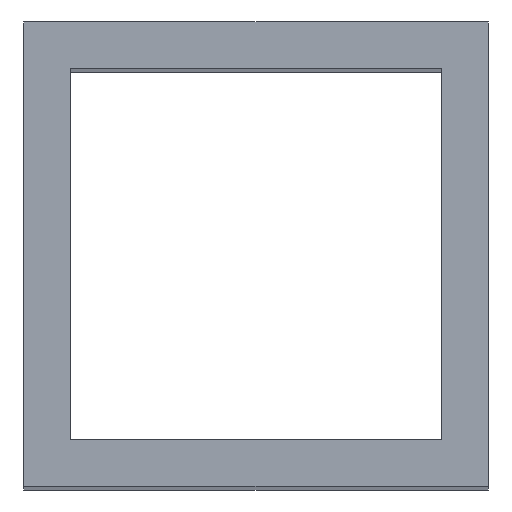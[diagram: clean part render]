
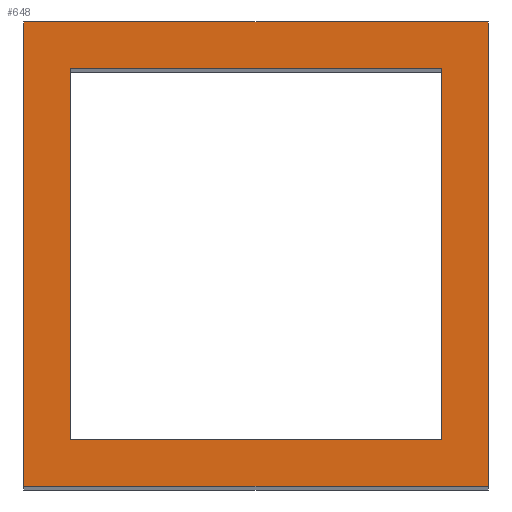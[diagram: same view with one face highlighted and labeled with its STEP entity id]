
A CAD part, top view. The second image highlights one B-rep face of the part: STEP entity #648.
In plain terms, the highlighted planar face has unit normal (0, 0, 1).
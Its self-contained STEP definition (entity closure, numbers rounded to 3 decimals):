
#24 = VERTEX_POINT('',#25);
#25 = CARTESIAN_POINT('',(-50.,-50.,468.));
#32 = PLANE('',#33);
#33 = AXIS2_PLACEMENT_3D('',#34,#35,#36);
#34 = CARTESIAN_POINT('',(-50.,-50.,0.));
#35 = DIRECTION('',(0.,1.,0.));
#36 = DIRECTION('',(1.,0.,0.));
#44 = PLANE('',#45);
#45 = AXIS2_PLACEMENT_3D('',#46,#47,#48);
#46 = CARTESIAN_POINT('',(-50.,50.,0.));
#47 = DIRECTION('',(1.,0.,-0.));
#48 = DIRECTION('',(0.,-1.,0.));
#56 = EDGE_CURVE('',#24,#57,#59,.T.);
#57 = VERTEX_POINT('',#58);
#58 = CARTESIAN_POINT('',(50.,-50.,468.));
#59 = SURFACE_CURVE('',#60,(#64,#71),.PCURVE_S1.);
#60 = LINE('',#61,#62);
#61 = CARTESIAN_POINT('',(-50.,-50.,468.));
#62 = VECTOR('',#63,1.);
#63 = DIRECTION('',(1.,0.,0.));
#64 = PCURVE('',#32,#65);
#65 = DEFINITIONAL_REPRESENTATION('',(#66),#70);
#66 = LINE('',#67,#68);
#67 = CARTESIAN_POINT('',(0.,-468.));
#68 = VECTOR('',#69,1.);
#69 = DIRECTION('',(1.,0.));
#70 = ( GEOMETRIC_REPRESENTATION_CONTEXT(2) 
PARAMETRIC_REPRESENTATION_CONTEXT() REPRESENTATION_CONTEXT('2D SPACE',''
  ) );
#71 = PCURVE('',#72,#77);
#72 = PLANE('',#73);
#73 = AXIS2_PLACEMENT_3D('',#74,#75,#76);
#74 = CARTESIAN_POINT('',(0.,0.,468.));
#75 = DIRECTION('',(0.,0.,1.));
#76 = DIRECTION('',(1.,0.,-0.));
#77 = DEFINITIONAL_REPRESENTATION('',(#78),#82);
#78 = LINE('',#79,#80);
#79 = CARTESIAN_POINT('',(-50.,-50.));
#80 = VECTOR('',#81,1.);
#81 = DIRECTION('',(1.,0.));
#82 = ( GEOMETRIC_REPRESENTATION_CONTEXT(2) 
PARAMETRIC_REPRESENTATION_CONTEXT() REPRESENTATION_CONTEXT('2D SPACE',''
  ) );
#100 = PLANE('',#101);
#101 = AXIS2_PLACEMENT_3D('',#102,#103,#104);
#102 = CARTESIAN_POINT('',(50.,-50.,0.));
#103 = DIRECTION('',(-1.,0.,0.));
#104 = DIRECTION('',(0.,1.,0.));
#142 = EDGE_CURVE('',#57,#143,#145,.T.);
#143 = VERTEX_POINT('',#144);
#144 = CARTESIAN_POINT('',(50.,50.,468.));
#145 = SURFACE_CURVE('',#146,(#150,#157),.PCURVE_S1.);
#146 = LINE('',#147,#148);
#147 = CARTESIAN_POINT('',(50.,-50.,468.));
#148 = VECTOR('',#149,1.);
#149 = DIRECTION('',(0.,1.,0.));
#150 = PCURVE('',#100,#151);
#151 = DEFINITIONAL_REPRESENTATION('',(#152),#156);
#152 = LINE('',#153,#154);
#153 = CARTESIAN_POINT('',(0.,-468.));
#154 = VECTOR('',#155,1.);
#155 = DIRECTION('',(1.,0.));
#156 = ( GEOMETRIC_REPRESENTATION_CONTEXT(2) 
PARAMETRIC_REPRESENTATION_CONTEXT() REPRESENTATION_CONTEXT('2D SPACE',''
  ) );
#157 = PCURVE('',#72,#158);
#158 = DEFINITIONAL_REPRESENTATION('',(#159),#163);
#159 = LINE('',#160,#161);
#160 = CARTESIAN_POINT('',(50.,-50.));
#161 = VECTOR('',#162,1.);
#162 = DIRECTION('',(0.,1.));
#163 = ( GEOMETRIC_REPRESENTATION_CONTEXT(2) 
PARAMETRIC_REPRESENTATION_CONTEXT() REPRESENTATION_CONTEXT('2D SPACE',''
  ) );
#181 = PLANE('',#182);
#182 = AXIS2_PLACEMENT_3D('',#183,#184,#185);
#183 = CARTESIAN_POINT('',(50.,50.,0.));
#184 = DIRECTION('',(0.,-1.,0.));
#185 = DIRECTION('',(-1.,0.,0.));
#218 = EDGE_CURVE('',#143,#219,#221,.T.);
#219 = VERTEX_POINT('',#220);
#220 = CARTESIAN_POINT('',(-50.,50.,468.));
#221 = SURFACE_CURVE('',#222,(#226,#233),.PCURVE_S1.);
#222 = LINE('',#223,#224);
#223 = CARTESIAN_POINT('',(50.,50.,468.));
#224 = VECTOR('',#225,1.);
#225 = DIRECTION('',(-1.,0.,0.));
#226 = PCURVE('',#181,#227);
#227 = DEFINITIONAL_REPRESENTATION('',(#228),#232);
#228 = LINE('',#229,#230);
#229 = CARTESIAN_POINT('',(0.,-468.));
#230 = VECTOR('',#231,1.);
#231 = DIRECTION('',(1.,0.));
#232 = ( GEOMETRIC_REPRESENTATION_CONTEXT(2) 
PARAMETRIC_REPRESENTATION_CONTEXT() REPRESENTATION_CONTEXT('2D SPACE',''
  ) );
#233 = PCURVE('',#72,#234);
#234 = DEFINITIONAL_REPRESENTATION('',(#235),#239);
#235 = LINE('',#236,#237);
#236 = CARTESIAN_POINT('',(50.,50.));
#237 = VECTOR('',#238,1.);
#238 = DIRECTION('',(-1.,0.));
#239 = ( GEOMETRIC_REPRESENTATION_CONTEXT(2) 
PARAMETRIC_REPRESENTATION_CONTEXT() REPRESENTATION_CONTEXT('2D SPACE',''
  ) );
#289 = EDGE_CURVE('',#219,#24,#290,.T.);
#290 = SURFACE_CURVE('',#291,(#295,#302),.PCURVE_S1.);
#291 = LINE('',#292,#293);
#292 = CARTESIAN_POINT('',(-50.,50.,468.));
#293 = VECTOR('',#294,1.);
#294 = DIRECTION('',(0.,-1.,0.));
#295 = PCURVE('',#44,#296);
#296 = DEFINITIONAL_REPRESENTATION('',(#297),#301);
#297 = LINE('',#298,#299);
#298 = CARTESIAN_POINT('',(0.,-468.));
#299 = VECTOR('',#300,1.);
#300 = DIRECTION('',(1.,0.));
#301 = ( GEOMETRIC_REPRESENTATION_CONTEXT(2) 
PARAMETRIC_REPRESENTATION_CONTEXT() REPRESENTATION_CONTEXT('2D SPACE',''
  ) );
#302 = PCURVE('',#72,#303);
#303 = DEFINITIONAL_REPRESENTATION('',(#304),#308);
#304 = LINE('',#305,#306);
#305 = CARTESIAN_POINT('',(-50.,50.));
#306 = VECTOR('',#307,1.);
#307 = DIRECTION('',(0.,-1.));
#308 = ( GEOMETRIC_REPRESENTATION_CONTEXT(2) 
PARAMETRIC_REPRESENTATION_CONTEXT() REPRESENTATION_CONTEXT('2D SPACE',''
  ) );
#338 = VERTEX_POINT('',#339);
#339 = CARTESIAN_POINT('',(-40.,-40.,468.));
#346 = PLANE('',#347);
#347 = AXIS2_PLACEMENT_3D('',#348,#349,#350);
#348 = CARTESIAN_POINT('',(-40.,-40.,0.));
#349 = DIRECTION('',(0.,1.,0.));
#350 = DIRECTION('',(1.,0.,0.));
#358 = PLANE('',#359);
#359 = AXIS2_PLACEMENT_3D('',#360,#361,#362);
#360 = CARTESIAN_POINT('',(-40.,40.,0.));
#361 = DIRECTION('',(1.,0.,-0.));
#362 = DIRECTION('',(0.,-1.,0.));
#370 = EDGE_CURVE('',#338,#371,#373,.T.);
#371 = VERTEX_POINT('',#372);
#372 = CARTESIAN_POINT('',(40.,-40.,468.));
#373 = SURFACE_CURVE('',#374,(#378,#385),.PCURVE_S1.);
#374 = LINE('',#375,#376);
#375 = CARTESIAN_POINT('',(-40.,-40.,468.));
#376 = VECTOR('',#377,1.);
#377 = DIRECTION('',(1.,0.,0.));
#378 = PCURVE('',#346,#379);
#379 = DEFINITIONAL_REPRESENTATION('',(#380),#384);
#380 = LINE('',#381,#382);
#381 = CARTESIAN_POINT('',(0.,-468.));
#382 = VECTOR('',#383,1.);
#383 = DIRECTION('',(1.,0.));
#384 = ( GEOMETRIC_REPRESENTATION_CONTEXT(2) 
PARAMETRIC_REPRESENTATION_CONTEXT() REPRESENTATION_CONTEXT('2D SPACE',''
  ) );
#385 = PCURVE('',#72,#386);
#386 = DEFINITIONAL_REPRESENTATION('',(#387),#391);
#387 = LINE('',#388,#389);
#388 = CARTESIAN_POINT('',(-40.,-40.));
#389 = VECTOR('',#390,1.);
#390 = DIRECTION('',(1.,0.));
#391 = ( GEOMETRIC_REPRESENTATION_CONTEXT(2) 
PARAMETRIC_REPRESENTATION_CONTEXT() REPRESENTATION_CONTEXT('2D SPACE',''
  ) );
#409 = PLANE('',#410);
#410 = AXIS2_PLACEMENT_3D('',#411,#412,#413);
#411 = CARTESIAN_POINT('',(40.,-40.,0.));
#412 = DIRECTION('',(-1.,0.,0.));
#413 = DIRECTION('',(0.,1.,0.));
#446 = EDGE_CURVE('',#371,#447,#449,.T.);
#447 = VERTEX_POINT('',#448);
#448 = CARTESIAN_POINT('',(40.,40.,468.));
#449 = SURFACE_CURVE('',#450,(#454,#461),.PCURVE_S1.);
#450 = LINE('',#451,#452);
#451 = CARTESIAN_POINT('',(40.,-40.,468.));
#452 = VECTOR('',#453,1.);
#453 = DIRECTION('',(0.,1.,0.));
#454 = PCURVE('',#409,#455);
#455 = DEFINITIONAL_REPRESENTATION('',(#456),#460);
#456 = LINE('',#457,#458);
#457 = CARTESIAN_POINT('',(0.,-468.));
#458 = VECTOR('',#459,1.);
#459 = DIRECTION('',(1.,0.));
#460 = ( GEOMETRIC_REPRESENTATION_CONTEXT(2) 
PARAMETRIC_REPRESENTATION_CONTEXT() REPRESENTATION_CONTEXT('2D SPACE',''
  ) );
#461 = PCURVE('',#72,#462);
#462 = DEFINITIONAL_REPRESENTATION('',(#463),#467);
#463 = LINE('',#464,#465);
#464 = CARTESIAN_POINT('',(40.,-40.));
#465 = VECTOR('',#466,1.);
#466 = DIRECTION('',(0.,1.));
#467 = ( GEOMETRIC_REPRESENTATION_CONTEXT(2) 
PARAMETRIC_REPRESENTATION_CONTEXT() REPRESENTATION_CONTEXT('2D SPACE',''
  ) );
#485 = PLANE('',#486);
#486 = AXIS2_PLACEMENT_3D('',#487,#488,#489);
#487 = CARTESIAN_POINT('',(40.,40.,0.));
#488 = DIRECTION('',(0.,-1.,0.));
#489 = DIRECTION('',(-1.,0.,0.));
#522 = EDGE_CURVE('',#447,#523,#525,.T.);
#523 = VERTEX_POINT('',#524);
#524 = CARTESIAN_POINT('',(-40.,40.,468.));
#525 = SURFACE_CURVE('',#526,(#530,#537),.PCURVE_S1.);
#526 = LINE('',#527,#528);
#527 = CARTESIAN_POINT('',(40.,40.,468.));
#528 = VECTOR('',#529,1.);
#529 = DIRECTION('',(-1.,0.,0.));
#530 = PCURVE('',#485,#531);
#531 = DEFINITIONAL_REPRESENTATION('',(#532),#536);
#532 = LINE('',#533,#534);
#533 = CARTESIAN_POINT('',(0.,-468.));
#534 = VECTOR('',#535,1.);
#535 = DIRECTION('',(1.,0.));
#536 = ( GEOMETRIC_REPRESENTATION_CONTEXT(2) 
PARAMETRIC_REPRESENTATION_CONTEXT() REPRESENTATION_CONTEXT('2D SPACE',''
  ) );
#537 = PCURVE('',#72,#538);
#538 = DEFINITIONAL_REPRESENTATION('',(#539),#543);
#539 = LINE('',#540,#541);
#540 = CARTESIAN_POINT('',(40.,40.));
#541 = VECTOR('',#542,1.);
#542 = DIRECTION('',(-1.,0.));
#543 = ( GEOMETRIC_REPRESENTATION_CONTEXT(2) 
PARAMETRIC_REPRESENTATION_CONTEXT() REPRESENTATION_CONTEXT('2D SPACE',''
  ) );
#593 = EDGE_CURVE('',#523,#338,#594,.T.);
#594 = SURFACE_CURVE('',#595,(#599,#606),.PCURVE_S1.);
#595 = LINE('',#596,#597);
#596 = CARTESIAN_POINT('',(-40.,40.,468.));
#597 = VECTOR('',#598,1.);
#598 = DIRECTION('',(0.,-1.,0.));
#599 = PCURVE('',#358,#600);
#600 = DEFINITIONAL_REPRESENTATION('',(#601),#605);
#601 = LINE('',#602,#603);
#602 = CARTESIAN_POINT('',(0.,-468.));
#603 = VECTOR('',#604,1.);
#604 = DIRECTION('',(1.,0.));
#605 = ( GEOMETRIC_REPRESENTATION_CONTEXT(2) 
PARAMETRIC_REPRESENTATION_CONTEXT() REPRESENTATION_CONTEXT('2D SPACE',''
  ) );
#606 = PCURVE('',#72,#607);
#607 = DEFINITIONAL_REPRESENTATION('',(#608),#612);
#608 = LINE('',#609,#610);
#609 = CARTESIAN_POINT('',(-40.,40.));
#610 = VECTOR('',#611,1.);
#611 = DIRECTION('',(0.,-1.));
#612 = ( GEOMETRIC_REPRESENTATION_CONTEXT(2) 
PARAMETRIC_REPRESENTATION_CONTEXT() REPRESENTATION_CONTEXT('2D SPACE',''
  ) );
#648 = ADVANCED_FACE('',(#649,#655),#72,.T.);
#649 = FACE_BOUND('',#650,.T.);
#650 = EDGE_LOOP('',(#651,#652,#653,#654));
#651 = ORIENTED_EDGE('',*,*,#56,.T.);
#652 = ORIENTED_EDGE('',*,*,#142,.T.);
#653 = ORIENTED_EDGE('',*,*,#218,.T.);
#654 = ORIENTED_EDGE('',*,*,#289,.T.);
#655 = FACE_BOUND('',#656,.F.);
#656 = EDGE_LOOP('',(#657,#658,#659,#660));
#657 = ORIENTED_EDGE('',*,*,#370,.T.);
#658 = ORIENTED_EDGE('',*,*,#446,.T.);
#659 = ORIENTED_EDGE('',*,*,#522,.T.);
#660 = ORIENTED_EDGE('',*,*,#593,.T.);
